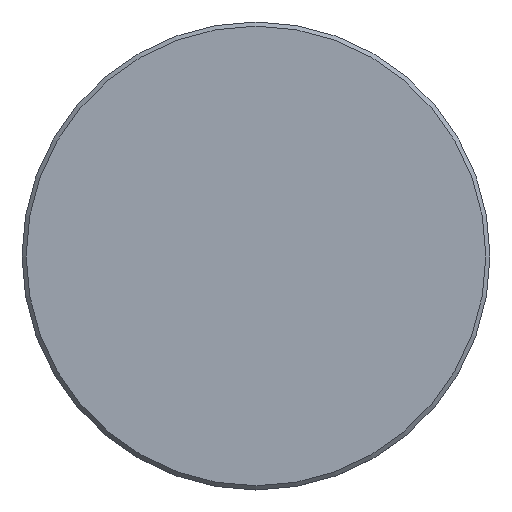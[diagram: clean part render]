
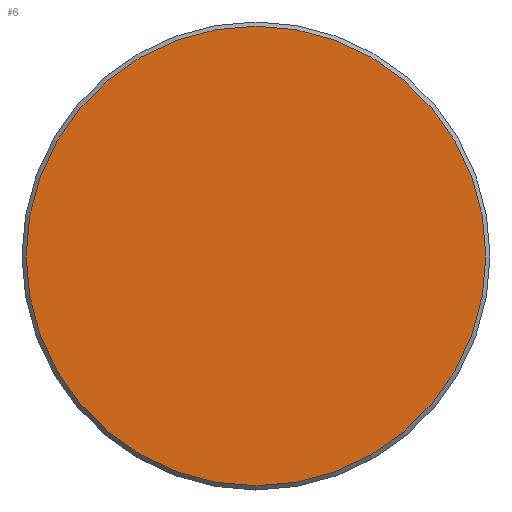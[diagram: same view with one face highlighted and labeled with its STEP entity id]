
A CAD part, top view. The second image highlights one B-rep face of the part: STEP entity #6.
In plain terms, the highlighted planar face has unit normal (0, 0, 1).
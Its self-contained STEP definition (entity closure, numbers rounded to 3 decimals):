
#4 = AXIS2_PLACEMENT_3D ( 'NONE', #197, #105, #12 ) ;
#6 = ADVANCED_FACE ( 'NONE', ( #102 ), #182, .F. ) ;
#12 = DIRECTION ( 'NONE',  ( -1., 0., 0. ) ) ;
#46 = VERTEX_POINT ( 'NONE', #90 ) ;
#90 = CARTESIAN_POINT ( 'NONE',  ( 27.5, 0., 0. ) ) ;
#102 = FACE_OUTER_BOUND ( 'NONE', #133, .T. ) ;
#105 = DIRECTION ( 'NONE',  ( 0., 0., -1. ) ) ;
#106 = CARTESIAN_POINT ( 'NONE',  ( 0., 0., 0. ) ) ;
#123 = DIRECTION ( 'NONE',  ( 0., 0., 1. ) ) ;
#125 = DIRECTION ( 'NONE',  ( 1., 0., 0. ) ) ;
#131 = ORIENTED_EDGE ( 'NONE', *, *, #190, .T. ) ;
#133 = EDGE_LOOP ( 'NONE', ( #131 ) ) ;
#182 = PLANE ( 'NONE',  #4 ) ;
#188 = AXIS2_PLACEMENT_3D ( 'NONE', #106, #123, #125 ) ;
#190 = EDGE_CURVE ( 'NONE', #46, #46, #191, .T. ) ;
#191 = CIRCLE ( 'NONE', #188, 27.5 ) ;
#197 = CARTESIAN_POINT ( 'NONE',  ( 0., 0., 0. ) ) ;
